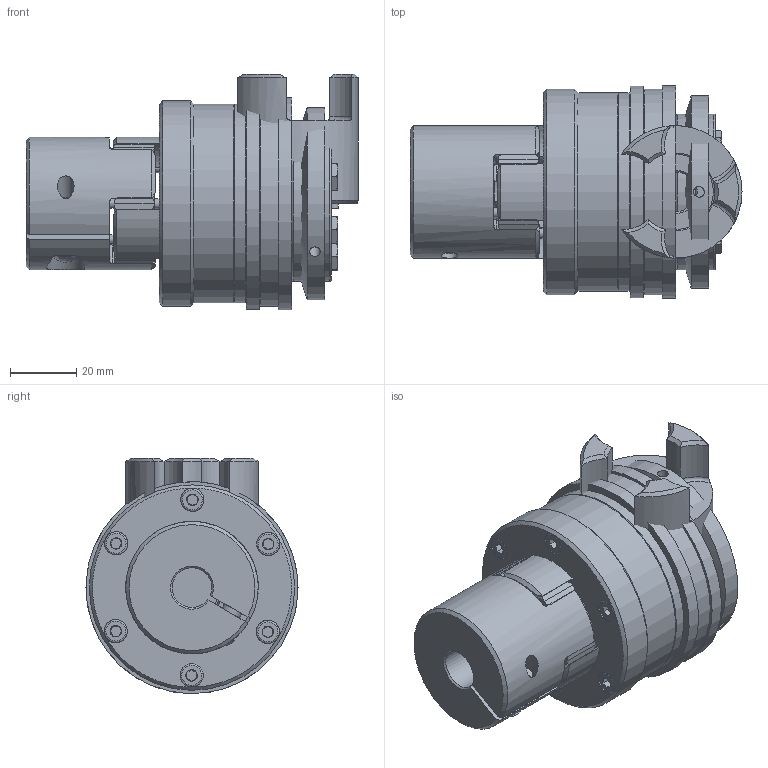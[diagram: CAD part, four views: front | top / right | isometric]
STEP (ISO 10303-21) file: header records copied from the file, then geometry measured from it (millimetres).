
FILE_DESCRIPTION( ( 'Unknown' ), '1' );
FILE_NAME( 'C:/Dokumente und Einstellungen/Sven/Desktop/hp kbk/E-KA/KBK EKA-19-96.stp', 'Unknown', ( 'Unknown' ), ( 'Unknown' ), 'XStep 1.0', 'Unknown', ' ' );
FILE_SCHEMA( ( 'automotive_design' ) );
Length unit declared in the file: millimetre
Products named in the file (17): Assem1; Assem2; ball_bearing_-_6005_0_01_2; ball_bearing_-_6005_0_02_1; ball_bearing_-_6005_0_03_1; Stellring 30_1; Druckring 30_1; Flansch L30_1; a_25_1; Elastomerflansch 19_1; Zahnkranz_19_1; KBE 2 - 19_Nabe; ISO EN DIN 4762_M4x16_1; schraube_iso_7380-m6x16-12_9_1; L-A-30 Grundkörper_1; Druckring L-A-30_1; din_en_24017_m5x16_1
Bounding box: 100.2 x 64 x 71 mm (x, y, z)
Volume: 310554.4 mm3; surface area: 156135.3 mm2
Topology: 43 solids, 43 shells, 994 faces, 2200 edges, 1393 vertices
Faces by surface type: plane 381, cylinder 290, cone 253, torus 68, bspline 2
Full cylindrical faces by diameter (mm): 2 x4, 3 x12, 3.242 x18, 3.5 x7, 4 x14, 4.134 x12, 4.2 x12, 5 x9, 5.5 x12, 6 x2, 6.5 x2, 6.88 x7, 7 x19, 8 x2, 12 x2, 18 x4, 23.9 x2, 24.7 x2, 25 x7, 32 x6, 34 x2, 38 x4, 40 x2, 40.3 x6, 46 x2, 47 x7, 52 x2, 58 x2, 60 x4, 62 x2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
Entity records: 11408 total; most frequent: CARTESIAN_POINT 2536, DIRECTION 1767, ORIENTED_EDGE 1406, AXIS2_PLACEMENT_3D 799, EDGE_CURVE 703, EDGE_LOOP 576, VERTEX_POINT 514, FACE_OUTER_BOUND 462
